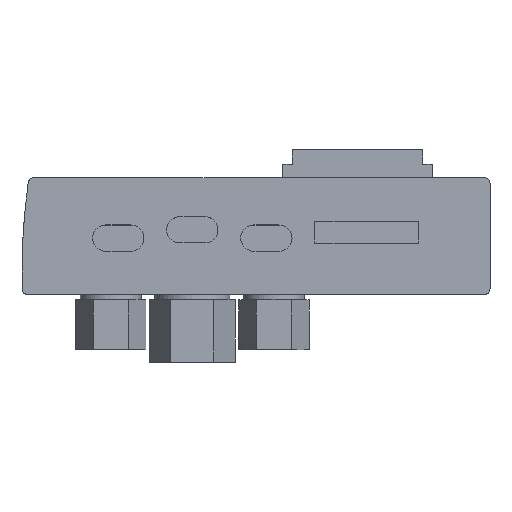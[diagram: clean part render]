
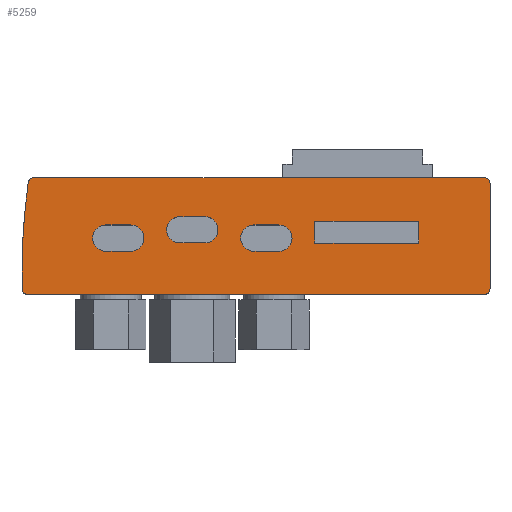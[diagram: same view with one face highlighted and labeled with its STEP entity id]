
A CAD part, top view. The second image highlights one B-rep face of the part: STEP entity #5259.
In plain terms, the highlighted planar face has unit normal (0, 0, 1).
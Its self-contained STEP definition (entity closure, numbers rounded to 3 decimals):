
#651=CARTESIAN_POINT('',(-27.5,2.25,19.825));
#652=DIRECTION('',(0.,0.,1.));
#653=DIRECTION('',(0.,1.,0.));
#654=AXIS2_PLACEMENT_3D('',#651,#652,#653);
#656=DIRECTION('',(1.,0.,0.));
#657=VECTOR('',#656,9.);
#658=CARTESIAN_POINT('',(-27.5,-2.5,19.825));
#659=LINE('',#658,#657);
#660=CARTESIAN_POINT('',(-18.5,2.25,19.825));
#661=DIRECTION('',(0.,0.,1.));
#662=DIRECTION('',(0.,-1.,0.));
#663=AXIS2_PLACEMENT_3D('',#660,#661,#662);
#665=DIRECTION('',(-1.,0.,0.));
#666=VECTOR('',#665,9.);
#667=CARTESIAN_POINT('',(-18.5,7.,19.825));
#668=LINE('',#667,#666);
#669=CARTESIAN_POINT('',(-0.75,-0.75,19.825));
#670=DIRECTION('',(0.,0.,1.));
#671=DIRECTION('',(0.,1.,0.));
#672=AXIS2_PLACEMENT_3D('',#669,#670,#671);
#674=DIRECTION('',(1.,0.,0.));
#675=VECTOR('',#674,9.);
#676=CARTESIAN_POINT('',(-0.75,-5.5,19.825));
#677=LINE('',#676,#675);
#678=CARTESIAN_POINT('',(8.25,-0.75,19.825));
#679=DIRECTION('',(0.,0.,1.));
#680=DIRECTION('',(0.,-1.,0.));
#681=AXIS2_PLACEMENT_3D('',#678,#679,#680);
#683=DIRECTION('',(-1.,0.,0.));
#684=VECTOR('',#683,9.);
#685=CARTESIAN_POINT('',(8.25,4.,19.825));
#686=LINE('',#685,#684);
#687=CARTESIAN_POINT('',(-45.25,-0.75,19.825));
#688=DIRECTION('',(0.,0.,1.));
#689=DIRECTION('',(0.,-1.,0.));
#690=AXIS2_PLACEMENT_3D('',#687,#688,#689);
#692=DIRECTION('',(-1.,0.,0.));
#693=VECTOR('',#692,9.);
#694=CARTESIAN_POINT('',(-45.25,4.,19.825));
#695=LINE('',#694,#693);
#696=CARTESIAN_POINT('',(-54.25,-0.75,19.825));
#697=DIRECTION('',(0.,0.,1.));
#698=DIRECTION('',(0.,1.,0.));
#699=AXIS2_PLACEMENT_3D('',#696,#697,#698);
#701=DIRECTION('',(1.,0.,0.));
#702=VECTOR('',#701,9.);
#703=CARTESIAN_POINT('',(-54.25,-5.5,19.825));
#704=LINE('',#703,#702);
#705=CARTESIAN_POINT('',(82.5,19.,19.825));
#706=DIRECTION('',(0.,0.,1.));
#707=DIRECTION('',(1.,0.,0.));
#708=AXIS2_PLACEMENT_3D('',#705,#706,#707);
#710=DIRECTION('',(0.,1.,0.));
#711=VECTOR('',#710,38.);
#712=CARTESIAN_POINT('',(84.5,-19.,19.825));
#713=LINE('',#712,#711);
#714=CARTESIAN_POINT('',(82.5,-19.,19.825));
#715=DIRECTION('',(0.,0.,1.));
#716=DIRECTION('',(0.,-1.,0.));
#717=AXIS2_PLACEMENT_3D('',#714,#715,#716);
#719=DIRECTION('',(1.,0.,0.));
#720=VECTOR('',#719,165.);
#721=CARTESIAN_POINT('',(-82.5,-21.,19.825));
#722=LINE('',#721,#720);
#723=CARTESIAN_POINT('',(-82.5,-19.,19.825));
#724=DIRECTION('',(0.,0.,1.));
#725=DIRECTION('',(-1.,0.,0.));
#726=AXIS2_PLACEMENT_3D('',#723,#724,#725);
#728=DIRECTION('',(0.,-1.,0.));
#729=VECTOR('',#728,6.);
#730=CARTESIAN_POINT('',(-84.5,-13.,19.825));
#731=LINE('',#730,#729);
#732=CARTESIAN_POINT('',(147.95,-13.,19.825));
#733=DIRECTION('',(0.,0.,1.));
#734=DIRECTION('',(-0.99,0.139,0.));
#735=AXIS2_PLACEMENT_3D('',#732,#733,#734);
#737=CARTESIAN_POINT('',(-80.267,19.,19.825));
#738=DIRECTION('',(0.,0.,1.));
#739=DIRECTION('',(0.,1.,0.));
#740=AXIS2_PLACEMENT_3D('',#737,#738,#739);
#742=DIRECTION('',(-1.,0.,0.));
#743=VECTOR('',#742,162.767);
#744=CARTESIAN_POINT('',(82.5,21.,19.825));
#745=LINE('',#744,#743);
#746=DIRECTION('',(-1.,0.,0.));
#747=VECTOR('',#746,37.5);
#748=CARTESIAN_POINT('',(58.75,5.35,19.825));
#749=LINE('',#748,#747);
#750=DIRECTION('',(0.,-1.,0.));
#751=VECTOR('',#750,7.9);
#752=CARTESIAN_POINT('',(21.25,5.35,19.825));
#753=LINE('',#752,#751);
#754=DIRECTION('',(1.,0.,0.));
#755=VECTOR('',#754,37.5);
#756=CARTESIAN_POINT('',(21.25,-2.55,19.825));
#757=LINE('',#756,#755);
#758=DIRECTION('',(0.,1.,0.));
#759=VECTOR('',#758,7.9);
#760=CARTESIAN_POINT('',(58.75,-2.55,19.825));
#761=LINE('',#760,#759);
#3672=CARTESIAN_POINT('',(-84.5,-13.,19.825));
#3674=VERTEX_POINT('',#3672);
#3699=CARTESIAN_POINT('',(-27.5,7.,19.825));
#3700=CARTESIAN_POINT('',(-27.5,-2.5,19.825));
#3701=VERTEX_POINT('',#3699);
#3702=VERTEX_POINT('',#3700);
#3703=CARTESIAN_POINT('',(-18.5,-2.5,19.825));
#3704=VERTEX_POINT('',#3703);
#3705=CARTESIAN_POINT('',(-18.5,7.,19.825));
#3706=VERTEX_POINT('',#3705);
#3707=CARTESIAN_POINT('',(-0.75,4.,19.825));
#3708=CARTESIAN_POINT('',(-0.75,-5.5,19.825));
#3709=VERTEX_POINT('',#3707);
#3710=VERTEX_POINT('',#3708);
#3711=CARTESIAN_POINT('',(8.25,-5.5,19.825));
#3712=VERTEX_POINT('',#3711);
#3713=CARTESIAN_POINT('',(8.25,4.,19.825));
#3714=VERTEX_POINT('',#3713);
#3715=CARTESIAN_POINT('',(-45.25,-5.5,19.825));
#3716=CARTESIAN_POINT('',(-45.25,4.,19.825));
#3717=VERTEX_POINT('',#3715);
#3718=VERTEX_POINT('',#3716);
#3719=CARTESIAN_POINT('',(-54.25,4.,19.825));
#3720=VERTEX_POINT('',#3719);
#3721=CARTESIAN_POINT('',(-54.25,-5.5,19.825));
#3722=VERTEX_POINT('',#3721);
#4241=CARTESIAN_POINT('',(82.5,21.,19.825));
#4243=VERTEX_POINT('',#4241);
#4245=CARTESIAN_POINT('',(84.5,19.,19.825));
#4247=VERTEX_POINT('',#4245);
#4249=CARTESIAN_POINT('',(-82.5,-21.,19.825));
#4251=VERTEX_POINT('',#4249);
#4253=CARTESIAN_POINT('',(-84.5,-19.,19.825));
#4255=VERTEX_POINT('',#4253);
#4257=CARTESIAN_POINT('',(84.5,-19.,19.825));
#4259=VERTEX_POINT('',#4257);
#4261=CARTESIAN_POINT('',(82.5,-21.,19.825));
#4263=VERTEX_POINT('',#4261);
#4265=CARTESIAN_POINT('',(-82.248,19.278,19.825));
#4267=VERTEX_POINT('',#4265);
#4269=CARTESIAN_POINT('',(-80.267,21.,19.825));
#4271=VERTEX_POINT('',#4269);
#4425=CARTESIAN_POINT('',(58.75,5.35,19.825));
#4426=CARTESIAN_POINT('',(21.25,5.35,19.825));
#4427=VERTEX_POINT('',#4425);
#4428=VERTEX_POINT('',#4426);
#4429=CARTESIAN_POINT('',(21.25,-2.55,19.825));
#4430=VERTEX_POINT('',#4429);
#4431=CARTESIAN_POINT('',(58.75,-2.55,19.825));
#4432=VERTEX_POINT('',#4431);
#5196=CARTESIAN_POINT('',(0.,0.,19.825));
#5197=DIRECTION('',(0.,0.,1.));
#5198=DIRECTION('',(1.,0.,0.));
#5199=AXIS2_PLACEMENT_3D('',#5196,#5197,#5198);
#5200=PLANE('',#5199);
#5201=ORIENTED_EDGE('',*,*,#4867,.F.);
#5203=ORIENTED_EDGE('',*,*,#5202,.F.);
#5205=ORIENTED_EDGE('',*,*,#5204,.F.);
#5207=ORIENTED_EDGE('',*,*,#5206,.F.);
#5209=ORIENTED_EDGE('',*,*,#5208,.F.);
#5211=ORIENTED_EDGE('',*,*,#5210,.F.);
#5213=ORIENTED_EDGE('',*,*,#5212,.F.);
#5215=ORIENTED_EDGE('',*,*,#5214,.F.);
#5216=ORIENTED_EDGE('',*,*,#4878,.F.);
#5217=EDGE_LOOP('',(#5201,#5203,#5205,#5207,#5209,#5211,#5213,#5215,#5216));
#5218=FACE_OUTER_BOUND('',#5217,.F.);
#5220=ORIENTED_EDGE('',*,*,#5219,.T.);
#5222=ORIENTED_EDGE('',*,*,#5221,.T.);
#5224=ORIENTED_EDGE('',*,*,#5223,.T.);
#5226=ORIENTED_EDGE('',*,*,#5225,.T.);
#5227=EDGE_LOOP('',(#5220,#5222,#5224,#5226));
#5228=FACE_BOUND('',#5227,.F.);
#5230=ORIENTED_EDGE('',*,*,#5229,.T.);
#5232=ORIENTED_EDGE('',*,*,#5231,.T.);
#5234=ORIENTED_EDGE('',*,*,#5233,.T.);
#5236=ORIENTED_EDGE('',*,*,#5235,.T.);
#5237=EDGE_LOOP('',(#5230,#5232,#5234,#5236));
#5238=FACE_BOUND('',#5237,.F.);
#5240=ORIENTED_EDGE('',*,*,#5239,.T.);
#5242=ORIENTED_EDGE('',*,*,#5241,.T.);
#5244=ORIENTED_EDGE('',*,*,#5243,.T.);
#5246=ORIENTED_EDGE('',*,*,#5245,.T.);
#5247=EDGE_LOOP('',(#5240,#5242,#5244,#5246));
#5248=FACE_BOUND('',#5247,.F.);
#5250=ORIENTED_EDGE('',*,*,#5249,.T.);
#5252=ORIENTED_EDGE('',*,*,#5251,.T.);
#5254=ORIENTED_EDGE('',*,*,#5253,.T.);
#5256=ORIENTED_EDGE('',*,*,#5255,.T.);
#5257=EDGE_LOOP('',(#5250,#5252,#5254,#5256));
#5258=FACE_BOUND('',#5257,.F.);
#5259=ADVANCED_FACE('',(#5218,#5228,#5238,#5248,#5258),#5200,.T.);
#655=CIRCLE('',#654,4.75);
#664=CIRCLE('',#663,4.75);
#673=CIRCLE('',#672,4.75);
#682=CIRCLE('',#681,4.75);
#691=CIRCLE('',#690,4.75);
#700=CIRCLE('',#699,4.75);
#709=CIRCLE('',#708,2.);
#718=CIRCLE('',#717,2.);
#727=CIRCLE('',#726,2.);
#736=CIRCLE('',#735,232.45);
#741=CIRCLE('',#740,2.);
#4867=EDGE_CURVE('',#4247,#4243,#709,.T.);
#4878=EDGE_CURVE('',#4243,#4271,#745,.T.);
#5202=EDGE_CURVE('',#4259,#4247,#713,.T.);
#5204=EDGE_CURVE('',#4263,#4259,#718,.T.);
#5206=EDGE_CURVE('',#4251,#4263,#722,.T.);
#5208=EDGE_CURVE('',#4255,#4251,#727,.T.);
#5210=EDGE_CURVE('',#3674,#4255,#731,.T.);
#5212=EDGE_CURVE('',#4267,#3674,#736,.T.);
#5214=EDGE_CURVE('',#4271,#4267,#741,.T.);
#5219=EDGE_CURVE('',#3709,#3710,#673,.T.);
#5221=EDGE_CURVE('',#3710,#3712,#677,.T.);
#5223=EDGE_CURVE('',#3712,#3714,#682,.T.);
#5225=EDGE_CURVE('',#3714,#3709,#686,.T.);
#5229=EDGE_CURVE('',#3717,#3718,#691,.T.);
#5231=EDGE_CURVE('',#3718,#3720,#695,.T.);
#5233=EDGE_CURVE('',#3720,#3722,#700,.T.);
#5235=EDGE_CURVE('',#3722,#3717,#704,.T.);
#5239=EDGE_CURVE('',#3701,#3702,#655,.T.);
#5241=EDGE_CURVE('',#3702,#3704,#659,.T.);
#5243=EDGE_CURVE('',#3704,#3706,#664,.T.);
#5245=EDGE_CURVE('',#3706,#3701,#668,.T.);
#5249=EDGE_CURVE('',#4427,#4428,#749,.T.);
#5251=EDGE_CURVE('',#4428,#4430,#753,.T.);
#5253=EDGE_CURVE('',#4430,#4432,#757,.T.);
#5255=EDGE_CURVE('',#4432,#4427,#761,.T.);
